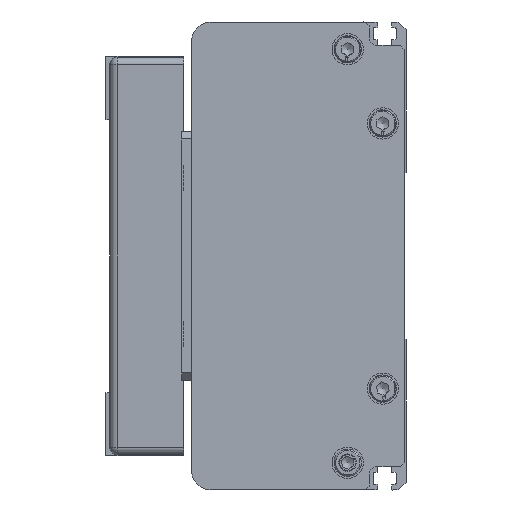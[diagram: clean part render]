
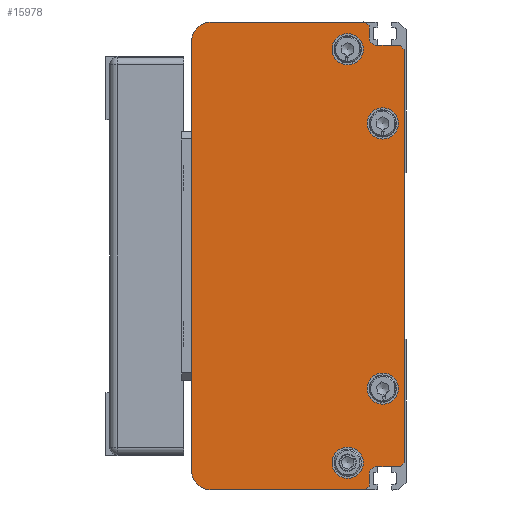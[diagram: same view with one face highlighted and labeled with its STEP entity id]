
A CAD part, left-side view. The second image highlights one B-rep face of the part: STEP entity #15978.
In plain terms, the highlighted planar face has unit normal (-1, 0, 0) as drawn and (0, 0, -1) by its records, which use the part's own axes.
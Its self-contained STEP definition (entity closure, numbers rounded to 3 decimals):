
#840=FACE_BOUND('',#2651,.T.);
#841=FACE_BOUND('',#2652,.T.);
#842=FACE_BOUND('',#2653,.T.);
#843=FACE_BOUND('',#2654,.T.);
#1168=CIRCLE('',#17126,5.);
#1169=CIRCLE('',#17128,5.);
#1170=CIRCLE('',#17129,2.);
#1171=CIRCLE('',#17130,2.);
#1172=CIRCLE('',#17131,4.);
#1173=CIRCLE('',#17132,4.);
#1174=CIRCLE('',#17133,4.);
#1175=CIRCLE('',#17134,4.);
#1608=FACE_OUTER_BOUND('',#2650,.T.);
#2650=EDGE_LOOP('',(#11016,#11017,#11018,#11019,#11020,#11021,#11022,#11023,
#11024,#11025,#11026,#11027,#11028,#11029,#11030,#11031));
#2651=EDGE_LOOP('',(#11032));
#2652=EDGE_LOOP('',(#11033));
#2653=EDGE_LOOP('',(#11034));
#2654=EDGE_LOOP('',(#11035));
#3897=LINE('',#22881,#5430);
#3898=LINE('',#22883,#5431);
#3899=LINE('',#22886,#5432);
#3900=LINE('',#22888,#5433);
#3901=LINE('',#22890,#5434);
#3902=LINE('',#22892,#5435);
#3903=LINE('',#22896,#5436);
#3904=LINE('',#22898,#5437);
#3905=LINE('',#22900,#5438);
#3906=LINE('',#22902,#5439);
#3907=LINE('',#22904,#5440);
#3908=LINE('',#22907,#5441);
#5430=VECTOR('',#18686,1.414);
#5431=VECTOR('',#18687,39.5);
#5432=VECTOR('',#18690,110.);
#5433=VECTOR('',#18691,39.5);
#5434=VECTOR('',#18692,1.414);
#5435=VECTOR('',#18693,3.);
#5436=VECTOR('',#18696,6.);
#5437=VECTOR('',#18697,1.414);
#5438=VECTOR('',#18698,106.);
#5439=VECTOR('',#18699,1.414);
#5440=VECTOR('',#18700,6.);
#5441=VECTOR('',#18703,3.);
#7005=VERTEX_POINT('',#22873);
#7006=VERTEX_POINT('',#22875);
#7007=VERTEX_POINT('',#22879);
#7008=VERTEX_POINT('',#22880);
#7009=VERTEX_POINT('',#22882);
#7010=VERTEX_POINT('',#22884);
#7011=VERTEX_POINT('',#22887);
#7012=VERTEX_POINT('',#22889);
#7013=VERTEX_POINT('',#22891);
#7014=VERTEX_POINT('',#22893);
#7015=VERTEX_POINT('',#22895);
#7016=VERTEX_POINT('',#22897);
#7017=VERTEX_POINT('',#22899);
#7018=VERTEX_POINT('',#22901);
#7019=VERTEX_POINT('',#22903);
#7020=VERTEX_POINT('',#22905);
#7021=VERTEX_POINT('',#22908);
#7022=VERTEX_POINT('',#22910);
#7023=VERTEX_POINT('',#22912);
#7024=VERTEX_POINT('',#22914);
#8607=EDGE_CURVE('',#7005,#7006,#1168,.T.);
#8609=EDGE_CURVE('',#7007,#7008,#3897,.T.);
#8610=EDGE_CURVE('',#7007,#7009,#3898,.T.);
#8611=EDGE_CURVE('',#7010,#7009,#1169,.T.);
#8612=EDGE_CURVE('',#7010,#7006,#3899,.T.);
#8613=EDGE_CURVE('',#7005,#7011,#3900,.T.);
#8614=EDGE_CURVE('',#7012,#7011,#3901,.T.);
#8615=EDGE_CURVE('',#7012,#7013,#3902,.T.);
#8616=EDGE_CURVE('',#7013,#7014,#1170,.T.);
#8617=EDGE_CURVE('',#7014,#7015,#3903,.T.);
#8618=EDGE_CURVE('',#7016,#7015,#3904,.T.);
#8619=EDGE_CURVE('',#7016,#7017,#3905,.T.);
#8620=EDGE_CURVE('',#7018,#7017,#3906,.T.);
#8621=EDGE_CURVE('',#7018,#7019,#3907,.T.);
#8622=EDGE_CURVE('',#7019,#7020,#1171,.T.);
#8623=EDGE_CURVE('',#7020,#7008,#3908,.T.);
#8624=EDGE_CURVE('',#7021,#7021,#1172,.T.);
#8625=EDGE_CURVE('',#7022,#7022,#1173,.T.);
#8626=EDGE_CURVE('',#7023,#7023,#1174,.T.);
#8627=EDGE_CURVE('',#7024,#7024,#1175,.T.);
#11016=ORIENTED_EDGE('',*,*,#8609,.F.);
#11017=ORIENTED_EDGE('',*,*,#8610,.T.);
#11018=ORIENTED_EDGE('',*,*,#8611,.F.);
#11019=ORIENTED_EDGE('',*,*,#8612,.T.);
#11020=ORIENTED_EDGE('',*,*,#8607,.F.);
#11021=ORIENTED_EDGE('',*,*,#8613,.T.);
#11022=ORIENTED_EDGE('',*,*,#8614,.F.);
#11023=ORIENTED_EDGE('',*,*,#8615,.T.);
#11024=ORIENTED_EDGE('',*,*,#8616,.T.);
#11025=ORIENTED_EDGE('',*,*,#8617,.T.);
#11026=ORIENTED_EDGE('',*,*,#8618,.F.);
#11027=ORIENTED_EDGE('',*,*,#8619,.T.);
#11028=ORIENTED_EDGE('',*,*,#8620,.F.);
#11029=ORIENTED_EDGE('',*,*,#8621,.T.);
#11030=ORIENTED_EDGE('',*,*,#8622,.T.);
#11031=ORIENTED_EDGE('',*,*,#8623,.T.);
#11032=ORIENTED_EDGE('',*,*,#8624,.T.);
#11033=ORIENTED_EDGE('',*,*,#8625,.T.);
#11034=ORIENTED_EDGE('',*,*,#8626,.T.);
#11035=ORIENTED_EDGE('',*,*,#8627,.T.);
#15346=PLANE('',#17127);
#15978=ADVANCED_FACE('',(#1608,#840,#841,#842,#843),#15346,.F.);
#17126=AXIS2_PLACEMENT_3D('',#22876,#18681,#18682);
#17127=AXIS2_PLACEMENT_3D('',#22878,#18684,#18685);
#17128=AXIS2_PLACEMENT_3D('',#22885,#18688,#18689);
#17129=AXIS2_PLACEMENT_3D('',#22894,#18694,#18695);
#17130=AXIS2_PLACEMENT_3D('',#22906,#18701,#18702);
#17131=AXIS2_PLACEMENT_3D('',#22909,#18704,#18705);
#17132=AXIS2_PLACEMENT_3D('',#22911,#18706,#18707);
#17133=AXIS2_PLACEMENT_3D('',#22913,#18708,#18709);
#17134=AXIS2_PLACEMENT_3D('',#22915,#18710,#18711);
#18681=DIRECTION('center_axis',(0.,0.,
1.));
#18682=DIRECTION('ref_axis',(0.707,0.707,0.));
#18684=DIRECTION('center_axis',(0.,0.,
1.));
#18685=DIRECTION('ref_axis',(-1.,-0.018,0.));
#18686=DIRECTION('',(0.707,-0.707,0.));
#18687=DIRECTION('',(0.,1.,0.));
#18688=DIRECTION('center_axis',(0.,0.,
1.));
#18689=DIRECTION('ref_axis',(-0.707,0.707,0.));
#18690=DIRECTION('',(1.,0.,0.));
#18691=DIRECTION('',(0.,-1.,0.));
#18692=DIRECTION('',(0.707,0.707,0.));
#18693=DIRECTION('',(-1.,0.,0.));
#18694=DIRECTION('center_axis',(0.,0.,
1.));
#18695=DIRECTION('ref_axis',(0.,-1.,0.));
#18696=DIRECTION('',(0.,-1.,0.));
#18697=DIRECTION('',(0.707,0.707,0.));
#18698=DIRECTION('',(-1.,0.,0.));
#18699=DIRECTION('',(0.707,-0.707,0.));
#18700=DIRECTION('',(0.,1.,0.));
#18701=DIRECTION('center_axis',(0.,0.,
1.));
#18702=DIRECTION('ref_axis',(1.,0.,0.));
#18703=DIRECTION('',(-1.,0.,0.));
#18704=DIRECTION('center_axis',(0.,0.,
1.));
#18705=DIRECTION('ref_axis',(0.,1.,0.));
#18706=DIRECTION('center_axis',(0.,0.,
1.));
#18707=DIRECTION('ref_axis',(0.,1.,0.));
#18708=DIRECTION('center_axis',(0.,0.,
1.));
#18709=DIRECTION('ref_axis',(0.,1.,0.));
#18710=DIRECTION('center_axis',(0.,0.,
1.));
#18711=DIRECTION('ref_axis',(0.,1.,0.));
#22873=CARTESIAN_POINT('',(124.75,50.75,-1192.5));
#22875=CARTESIAN_POINT('',(119.75,55.75,-1192.5));
#22876=CARTESIAN_POINT('Origin',(119.75,50.75,-1192.5));
#22878=CARTESIAN_POINT('Origin',(64.75,28.5,-1192.5));
#22879=CARTESIAN_POINT('',(4.75,11.25,-1192.5));
#22880=CARTESIAN_POINT('',(5.75,10.25,-1192.5));
#22881=CARTESIAN_POINT('',(4.75,11.25,-1192.5));
#22882=CARTESIAN_POINT('',(4.75,50.75,-1192.5));
#22883=CARTESIAN_POINT('',(4.75,11.25,-1192.5));
#22884=CARTESIAN_POINT('',(9.75,55.75,-1192.5));
#22885=CARTESIAN_POINT('Origin',(9.75,50.75,-1192.5));
#22886=CARTESIAN_POINT('',(9.75,55.75,-1192.5));
#22887=CARTESIAN_POINT('',(124.75,11.25,-1192.5));
#22888=CARTESIAN_POINT('',(124.75,50.75,-1192.5));
#22889=CARTESIAN_POINT('',(123.75,10.25,-1192.5));
#22890=CARTESIAN_POINT('',(123.75,10.25,-1192.5));
#22891=CARTESIAN_POINT('',(120.75,10.25,-1192.5));
#22892=CARTESIAN_POINT('',(123.75,10.25,-1192.5));
#22893=CARTESIAN_POINT('',(118.75,8.25,-1192.5));
#22894=CARTESIAN_POINT('Origin',(120.75,8.25,-1192.5));
#22895=CARTESIAN_POINT('',(118.75,2.25,-1192.5));
#22896=CARTESIAN_POINT('',(118.75,8.25,-1192.5));
#22897=CARTESIAN_POINT('',(117.75,1.25,-1192.5));
#22898=CARTESIAN_POINT('',(117.75,1.25,-1192.5));
#22899=CARTESIAN_POINT('',(11.75,1.25,-1192.5));
#22900=CARTESIAN_POINT('',(117.75,1.25,-1192.5));
#22901=CARTESIAN_POINT('',(10.75,2.25,-1192.5));
#22902=CARTESIAN_POINT('',(10.75,2.25,-1192.5));
#22903=CARTESIAN_POINT('',(10.75,8.25,-1192.5));
#22904=CARTESIAN_POINT('',(10.75,2.25,-1192.5));
#22905=CARTESIAN_POINT('',(8.75,10.25,-1192.5));
#22906=CARTESIAN_POINT('Origin',(8.75,8.25,-1192.5));
#22907=CARTESIAN_POINT('',(8.75,10.25,-1192.5));
#22908=CARTESIAN_POINT('',(30.75,10.75,-1192.5));
#22909=CARTESIAN_POINT('Origin',(30.75,6.75,-1192.5));
#22910=CARTESIAN_POINT('',(98.75,10.75,-1192.5));
#22911=CARTESIAN_POINT('Origin',(98.75,6.75,-1192.5));
#22912=CARTESIAN_POINT('',(11.75,19.75,-1192.5));
#22913=CARTESIAN_POINT('Origin',(11.75,15.75,-1192.5));
#22914=CARTESIAN_POINT('',(117.75,19.75,-1192.5));
#22915=CARTESIAN_POINT('Origin',(117.75,15.75,-1192.5));
